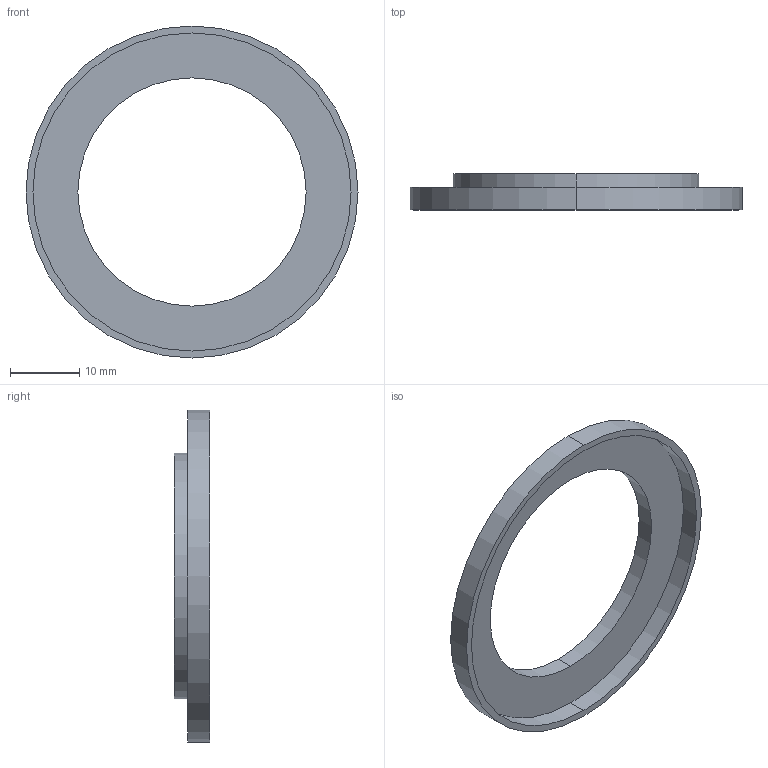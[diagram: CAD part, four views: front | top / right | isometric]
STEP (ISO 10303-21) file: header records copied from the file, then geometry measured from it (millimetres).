
FILE_DESCRIPTION (( 'STEP AP214' ), '1' );
FILE_NAME ('SU35.5-46.STEP', '2019-04-03T14:56:23', ( '' ), ( '' ), 'SwSTEP 2.0', 'SolidWorks 2019', '' );
FILE_SCHEMA (( 'AUTOMOTIVE_DESIGN' ));
Length unit declared in the file: millimetre
Products named in the file (1): SU35.5-46
Bounding box: 48 x 5.2 x 48 mm (x, y, z)
Volume: 1210 mm3; surface area: 3264.2 mm2
Topology: 1 solids, 1 shells, 12 faces, 24 edges, 16 vertices
Faces by surface type: cylinder 8, plane 4
Entity records: 362 total; most frequent: DIRECTION 66, CARTESIAN_POINT 53, ORIENTED_EDGE 48, AXIS2_PLACEMENT_3D 29, EDGE_CURVE 24, CIRCLE 16, EDGE_LOOP 16, VERTEX_POINT 16
